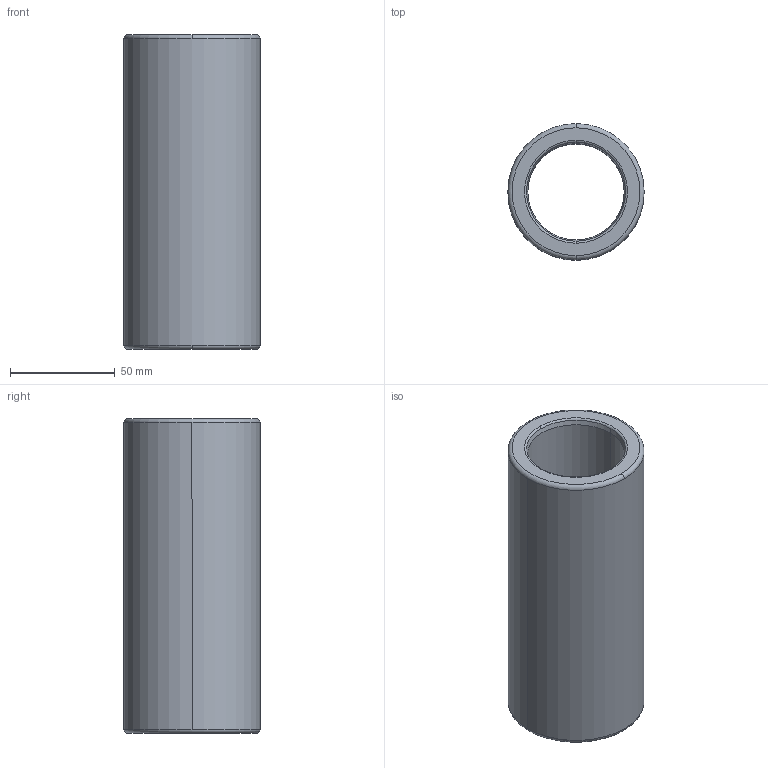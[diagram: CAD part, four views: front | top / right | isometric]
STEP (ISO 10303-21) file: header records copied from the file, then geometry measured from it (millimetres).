
FILE_DESCRIPTION((''),'2;1');
FILE_NAME('B30_038_150.stp','2009-01-12T10:47:33',(''),(''),'Mechanical Desktop 2009','Mechanical Desktop 2009',', , ');
FILE_SCHEMA(('CONFIG_CONTROL_DESIGN'));
Length unit declared in the file: millimetre
Products named in the file (2): Product; blmdl1
Assembly tree (1 placements, depth 2):
  Product
    blmdl1
Bounding box: 64.99 x 64.99 x 150 mm (x, y, z)
Volume: 247928.3 mm3; surface area: 54986.1 mm2
Topology: 1 solids, 1 shells, 18 faces, 48 edges, 32 vertices
Faces by surface type: torus 8, cylinder 4, cone 4, plane 2
Entity records: 705 total; most frequent: DIRECTION 128, CARTESIAN_POINT 100, ORIENTED_EDGE 96, AXIS2_PLACEMENT_3D 60, EDGE_CURVE 48, CIRCLE 40, VERTEX_POINT 32, EDGE_LOOP 20
